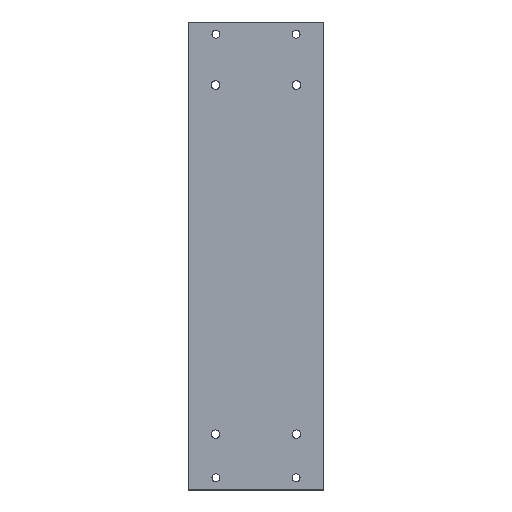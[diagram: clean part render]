
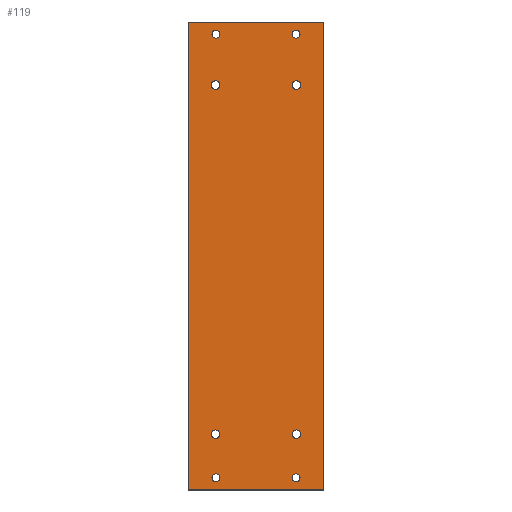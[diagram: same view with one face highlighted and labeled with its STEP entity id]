
A CAD part, top view. The second image highlights one B-rep face of the part: STEP entity #119.
In plain terms, the highlighted planar face has unit normal (0, 0, 1).
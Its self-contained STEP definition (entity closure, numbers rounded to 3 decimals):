
#22 = VERTEX_POINT('',#23);
#23 = CARTESIAN_POINT('',(0.,0.,0.));
#40 = VERTEX_POINT('',#41);
#41 = CARTESIAN_POINT('',(-56.,0.,0.));
#47 = EDGE_CURVE('',#22,#40,#48,.T.);
#48 = LINE('',#49,#50);
#49 = CARTESIAN_POINT('',(0.,0.,0.));
#50 = VECTOR('',#51,1.);
#51 = DIRECTION('',(-1.,0.,0.));
#62 = VERTEX_POINT('',#63);
#63 = CARTESIAN_POINT('',(0.,193.,0.));
#78 = EDGE_CURVE('',#62,#22,#79,.T.);
#79 = LINE('',#80,#81);
#80 = CARTESIAN_POINT('',(0.,193.,0.));
#81 = VECTOR('',#82,1.);
#82 = DIRECTION('',(0.,-1.,0.));
#102 = VERTEX_POINT('',#103);
#103 = CARTESIAN_POINT('',(-56.,193.,0.));
#109 = EDGE_CURVE('',#40,#102,#110,.T.);
#110 = LINE('',#111,#112);
#111 = CARTESIAN_POINT('',(-56.,0.,0.));
#112 = VECTOR('',#113,1.);
#113 = DIRECTION('',(0.,1.,0.));
#119 = ADVANCED_FACE('',(#120,#131,#142,#153,#164,#175,#186,#197,#208),
  #219,.T.);
#120 = FACE_BOUND('',#121,.T.);
#121 = EDGE_LOOP('',(#122,#123,#124,#130));
#122 = ORIENTED_EDGE('',*,*,#47,.F.);
#123 = ORIENTED_EDGE('',*,*,#78,.F.);
#124 = ORIENTED_EDGE('',*,*,#125,.F.);
#125 = EDGE_CURVE('',#102,#62,#126,.T.);
#126 = LINE('',#127,#128);
#127 = CARTESIAN_POINT('',(-56.,193.,0.));
#128 = VECTOR('',#129,1.);
#129 = DIRECTION('',(1.,0.,0.));
#130 = ORIENTED_EDGE('',*,*,#109,.F.);
#131 = FACE_BOUND('',#132,.T.);
#132 = EDGE_LOOP('',(#133));
#133 = ORIENTED_EDGE('',*,*,#134,.F.);
#134 = EDGE_CURVE('',#135,#135,#137,.T.);
#135 = VERTEX_POINT('',#136);
#136 = CARTESIAN_POINT('',(-42.85,5.,0.));
#137 = CIRCLE('',#138,1.65);
#138 = AXIS2_PLACEMENT_3D('',#139,#140,#141);
#139 = CARTESIAN_POINT('',(-44.5,5.,0.));
#140 = DIRECTION('',(0.,0.,1.));
#141 = DIRECTION('',(1.,0.,0.));
#142 = FACE_BOUND('',#143,.T.);
#143 = EDGE_LOOP('',(#144));
#144 = ORIENTED_EDGE('',*,*,#145,.F.);
#145 = EDGE_CURVE('',#146,#146,#148,.T.);
#146 = VERTEX_POINT('',#147);
#147 = CARTESIAN_POINT('',(-42.9,23.,0.));
#148 = CIRCLE('',#149,1.75);
#149 = AXIS2_PLACEMENT_3D('',#150,#151,#152);
#150 = CARTESIAN_POINT('',(-44.65,23.,0.));
#151 = DIRECTION('',(0.,0.,1.));
#152 = DIRECTION('',(1.,0.,0.));
#153 = FACE_BOUND('',#154,.T.);
#154 = EDGE_LOOP('',(#155));
#155 = ORIENTED_EDGE('',*,*,#156,.F.);
#156 = EDGE_CURVE('',#157,#157,#159,.T.);
#157 = VERTEX_POINT('',#158);
#158 = CARTESIAN_POINT('',(-9.85,5.,0.));
#159 = CIRCLE('',#160,1.65);
#160 = AXIS2_PLACEMENT_3D('',#161,#162,#163);
#161 = CARTESIAN_POINT('',(-11.5,5.,0.));
#162 = DIRECTION('',(0.,0.,1.));
#163 = DIRECTION('',(1.,0.,0.));
#164 = FACE_BOUND('',#165,.T.);
#165 = EDGE_LOOP('',(#166));
#166 = ORIENTED_EDGE('',*,*,#167,.F.);
#167 = EDGE_CURVE('',#168,#168,#170,.T.);
#168 = VERTEX_POINT('',#169);
#169 = CARTESIAN_POINT('',(-9.6,23.,0.));
#170 = CIRCLE('',#171,1.75);
#171 = AXIS2_PLACEMENT_3D('',#172,#173,#174);
#172 = CARTESIAN_POINT('',(-11.35,23.,0.));
#173 = DIRECTION('',(0.,0.,1.));
#174 = DIRECTION('',(1.,0.,0.));
#175 = FACE_BOUND('',#176,.T.);
#176 = EDGE_LOOP('',(#177));
#177 = ORIENTED_EDGE('',*,*,#178,.F.);
#178 = EDGE_CURVE('',#179,#179,#181,.T.);
#179 = VERTEX_POINT('',#180);
#180 = CARTESIAN_POINT('',(-42.9,167.,0.));
#181 = CIRCLE('',#182,1.75);
#182 = AXIS2_PLACEMENT_3D('',#183,#184,#185);
#183 = CARTESIAN_POINT('',(-44.65,167.,0.));
#184 = DIRECTION('',(0.,0.,1.));
#185 = DIRECTION('',(1.,0.,0.));
#186 = FACE_BOUND('',#187,.T.);
#187 = EDGE_LOOP('',(#188));
#188 = ORIENTED_EDGE('',*,*,#189,.F.);
#189 = EDGE_CURVE('',#190,#190,#192,.T.);
#190 = VERTEX_POINT('',#191);
#191 = CARTESIAN_POINT('',(-42.85,188.,0.));
#192 = CIRCLE('',#193,1.65);
#193 = AXIS2_PLACEMENT_3D('',#194,#195,#196);
#194 = CARTESIAN_POINT('',(-44.5,188.,0.));
#195 = DIRECTION('',(0.,0.,1.));
#196 = DIRECTION('',(1.,0.,0.));
#197 = FACE_BOUND('',#198,.T.);
#198 = EDGE_LOOP('',(#199));
#199 = ORIENTED_EDGE('',*,*,#200,.F.);
#200 = EDGE_CURVE('',#201,#201,#203,.T.);
#201 = VERTEX_POINT('',#202);
#202 = CARTESIAN_POINT('',(-9.6,167.,0.));
#203 = CIRCLE('',#204,1.75);
#204 = AXIS2_PLACEMENT_3D('',#205,#206,#207);
#205 = CARTESIAN_POINT('',(-11.35,167.,0.));
#206 = DIRECTION('',(0.,0.,1.));
#207 = DIRECTION('',(1.,0.,0.));
#208 = FACE_BOUND('',#209,.T.);
#209 = EDGE_LOOP('',(#210));
#210 = ORIENTED_EDGE('',*,*,#211,.F.);
#211 = EDGE_CURVE('',#212,#212,#214,.T.);
#212 = VERTEX_POINT('',#213);
#213 = CARTESIAN_POINT('',(-9.85,188.,0.));
#214 = CIRCLE('',#215,1.65);
#215 = AXIS2_PLACEMENT_3D('',#216,#217,#218);
#216 = CARTESIAN_POINT('',(-11.5,188.,0.));
#217 = DIRECTION('',(0.,0.,1.));
#218 = DIRECTION('',(1.,0.,0.));
#219 = PLANE('',#220);
#220 = AXIS2_PLACEMENT_3D('',#221,#222,#223);
#221 = CARTESIAN_POINT('',(-28.,96.5,0.));
#222 = DIRECTION('',(0.,0.,1.));
#223 = DIRECTION('',(1.,0.,0.));
